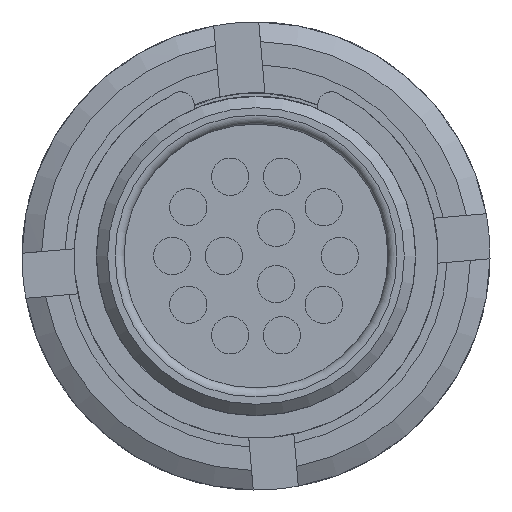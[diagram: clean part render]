
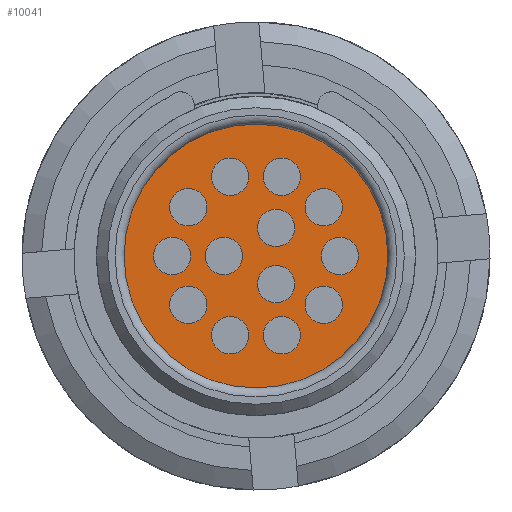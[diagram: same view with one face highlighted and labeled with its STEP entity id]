
A CAD part, left-side view. The second image highlights one B-rep face of the part: STEP entity #10041.
In plain terms, the highlighted planar face has unit normal (-1, 0, 0).
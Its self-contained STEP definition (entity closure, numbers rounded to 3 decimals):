
#169=FACE_BOUND('',#1397,.T.);
#170=FACE_BOUND('',#1398,.T.);
#171=FACE_BOUND('',#1399,.T.);
#172=FACE_BOUND('',#1400,.T.);
#173=FACE_BOUND('',#1401,.T.);
#174=FACE_BOUND('',#1402,.T.);
#175=FACE_BOUND('',#1403,.T.);
#176=FACE_BOUND('',#1404,.T.);
#177=FACE_BOUND('',#1405,.T.);
#178=FACE_BOUND('',#1406,.T.);
#179=FACE_BOUND('',#1407,.T.);
#180=FACE_BOUND('',#1408,.T.);
#181=FACE_BOUND('',#1409,.T.);
#467=PLANE('',#10839);
#856=FACE_OUTER_BOUND('',#1396,.T.);
#1396=EDGE_LOOP('',(#8080));
#1397=EDGE_LOOP('',(#8081));
#1398=EDGE_LOOP('',(#8082));
#1399=EDGE_LOOP('',(#8083));
#1400=EDGE_LOOP('',(#8084));
#1401=EDGE_LOOP('',(#8085));
#1402=EDGE_LOOP('',(#8086));
#1403=EDGE_LOOP('',(#8087));
#1404=EDGE_LOOP('',(#8088));
#1405=EDGE_LOOP('',(#8089));
#1406=EDGE_LOOP('',(#8090));
#1407=EDGE_LOOP('',(#8091));
#1408=EDGE_LOOP('',(#8092));
#1409=EDGE_LOOP('',(#8093));
#3266=CIRCLE('',#10840,5.835);
#3267=CIRCLE('',#10841,0.825);
#3268=CIRCLE('',#10842,0.825);
#3269=CIRCLE('',#10843,0.825);
#3270=CIRCLE('',#10844,0.825);
#3271=CIRCLE('',#10845,0.825);
#3272=CIRCLE('',#10846,0.825);
#3273=CIRCLE('',#10847,0.825);
#3274=CIRCLE('',#10848,0.825);
#3275=CIRCLE('',#10849,0.825);
#3276=CIRCLE('',#10850,0.825);
#3277=CIRCLE('',#10851,0.825);
#3278=CIRCLE('',#10852,0.825);
#3279=CIRCLE('',#10853,0.825);
#4265=VERTEX_POINT('',#22636);
#4266=VERTEX_POINT('',#22638);
#4267=VERTEX_POINT('',#22640);
#4268=VERTEX_POINT('',#22642);
#4269=VERTEX_POINT('',#22644);
#4270=VERTEX_POINT('',#22646);
#4271=VERTEX_POINT('',#22648);
#4272=VERTEX_POINT('',#22650);
#4273=VERTEX_POINT('',#22652);
#4274=VERTEX_POINT('',#22654);
#4275=VERTEX_POINT('',#22656);
#4276=VERTEX_POINT('',#22658);
#4277=VERTEX_POINT('',#22660);
#4278=VERTEX_POINT('',#22662);
#5626=EDGE_CURVE('',#4265,#4265,#3266,.T.);
#5627=EDGE_CURVE('',#4266,#4266,#3267,.T.);
#5628=EDGE_CURVE('',#4267,#4267,#3268,.T.);
#5629=EDGE_CURVE('',#4268,#4268,#3269,.T.);
#5630=EDGE_CURVE('',#4269,#4269,#3270,.T.);
#5631=EDGE_CURVE('',#4270,#4270,#3271,.T.);
#5632=EDGE_CURVE('',#4271,#4271,#3272,.T.);
#5633=EDGE_CURVE('',#4272,#4272,#3273,.T.);
#5634=EDGE_CURVE('',#4273,#4273,#3274,.T.);
#5635=EDGE_CURVE('',#4274,#4274,#3275,.T.);
#5636=EDGE_CURVE('',#4275,#4275,#3276,.T.);
#5637=EDGE_CURVE('',#4276,#4276,#3277,.T.);
#5638=EDGE_CURVE('',#4277,#4277,#3278,.T.);
#5639=EDGE_CURVE('',#4278,#4278,#3279,.T.);
#8080=ORIENTED_EDGE('',*,*,#5626,.F.);
#8081=ORIENTED_EDGE('',*,*,#5627,.T.);
#8082=ORIENTED_EDGE('',*,*,#5628,.T.);
#8083=ORIENTED_EDGE('',*,*,#5629,.T.);
#8084=ORIENTED_EDGE('',*,*,#5630,.T.);
#8085=ORIENTED_EDGE('',*,*,#5631,.T.);
#8086=ORIENTED_EDGE('',*,*,#5632,.T.);
#8087=ORIENTED_EDGE('',*,*,#5633,.T.);
#8088=ORIENTED_EDGE('',*,*,#5634,.T.);
#8089=ORIENTED_EDGE('',*,*,#5635,.T.);
#8090=ORIENTED_EDGE('',*,*,#5636,.T.);
#8091=ORIENTED_EDGE('',*,*,#5637,.T.);
#8092=ORIENTED_EDGE('',*,*,#5638,.T.);
#8093=ORIENTED_EDGE('',*,*,#5639,.T.);
#10041=ADVANCED_FACE('',(#856,#169,#170,#171,#172,#173,#174,#175,#176,#177,
#178,#179,#180,#181),#467,.F.);
#10839=AXIS2_PLACEMENT_3D('',#22635,#12698,#12699);
#10840=AXIS2_PLACEMENT_3D('',#22637,#12700,#12701);
#10841=AXIS2_PLACEMENT_3D('',#22639,#12702,#12703);
#10842=AXIS2_PLACEMENT_3D('',#22641,#12704,#12705);
#10843=AXIS2_PLACEMENT_3D('',#22643,#12706,#12707);
#10844=AXIS2_PLACEMENT_3D('',#22645,#12708,#12709);
#10845=AXIS2_PLACEMENT_3D('',#22647,#12710,#12711);
#10846=AXIS2_PLACEMENT_3D('',#22649,#12712,#12713);
#10847=AXIS2_PLACEMENT_3D('',#22651,#12714,#12715);
#10848=AXIS2_PLACEMENT_3D('',#22653,#12716,#12717);
#10849=AXIS2_PLACEMENT_3D('',#22655,#12718,#12719);
#10850=AXIS2_PLACEMENT_3D('',#22657,#12720,#12721);
#10851=AXIS2_PLACEMENT_3D('',#22659,#12722,#12723);
#10852=AXIS2_PLACEMENT_3D('',#22661,#12724,#12725);
#10853=AXIS2_PLACEMENT_3D('',#22663,#12726,#12727);
#12698=DIRECTION('center_axis',(1.,0.,0.));
#12699=DIRECTION('ref_axis',(0.,0.,-1.));
#12700=DIRECTION('center_axis',(1.,0.,0.));
#12701=DIRECTION('ref_axis',(0.,0.,1.));
#12702=DIRECTION('center_axis',(1.,0.,0.));
#12703=DIRECTION('ref_axis',(0.,0.,-1.));
#12704=DIRECTION('center_axis',(1.,0.,0.));
#12705=DIRECTION('ref_axis',(0.,0.,-1.));
#12706=DIRECTION('center_axis',(1.,0.,0.));
#12707=DIRECTION('ref_axis',(0.,0.,-1.));
#12708=DIRECTION('center_axis',(1.,0.,0.));
#12709=DIRECTION('ref_axis',(0.,0.,-1.));
#12710=DIRECTION('center_axis',(1.,0.,0.));
#12711=DIRECTION('ref_axis',(0.,0.,-1.));
#12712=DIRECTION('center_axis',(1.,0.,0.));
#12713=DIRECTION('ref_axis',(0.,0.,-1.));
#12714=DIRECTION('center_axis',(1.,0.,0.));
#12715=DIRECTION('ref_axis',(0.,0.,-1.));
#12716=DIRECTION('center_axis',(1.,0.,0.));
#12717=DIRECTION('ref_axis',(0.,0.,-1.));
#12718=DIRECTION('center_axis',(1.,0.,0.));
#12719=DIRECTION('ref_axis',(0.,0.,-1.));
#12720=DIRECTION('center_axis',(1.,0.,0.));
#12721=DIRECTION('ref_axis',(0.,0.,-1.));
#12722=DIRECTION('center_axis',(1.,0.,0.));
#12723=DIRECTION('ref_axis',(0.,0.,-1.));
#12724=DIRECTION('center_axis',(1.,0.,0.));
#12725=DIRECTION('ref_axis',(0.,0.,-1.));
#12726=DIRECTION('center_axis',(1.,0.,0.));
#12727=DIRECTION('ref_axis',(0.,0.,-1.));
#22635=CARTESIAN_POINT('Origin',(2.015,0.,0.));
#22636=CARTESIAN_POINT('',(2.015,0.,-5.835));
#22637=CARTESIAN_POINT('Origin',(2.015,0.,0.));
#22638=CARTESIAN_POINT('',(2.015,1.42,0.825));
#22639=CARTESIAN_POINT('Origin',(2.015,1.42,0.));
#22640=CARTESIAN_POINT('',(2.015,2.997,-1.334));
#22641=CARTESIAN_POINT('Origin',(2.015,2.997,-2.159));
#22642=CARTESIAN_POINT('',(2.015,1.143,4.33));
#22643=CARTESIAN_POINT('Origin',(2.015,1.143,3.505));
#22644=CARTESIAN_POINT('',(2.015,-1.143,-2.68));
#22645=CARTESIAN_POINT('Origin',(2.015,-1.143,-3.505));
#22646=CARTESIAN_POINT('',(2.015,-0.889,2.07));
#22647=CARTESIAN_POINT('Origin',(2.015,-0.889,1.245));
#22648=CARTESIAN_POINT('',(2.015,-2.997,2.984));
#22649=CARTESIAN_POINT('Origin',(2.015,-2.997,2.159));
#22650=CARTESIAN_POINT('',(2.015,-2.997,-1.334));
#22651=CARTESIAN_POINT('Origin',(2.015,-2.997,-2.159));
#22652=CARTESIAN_POINT('',(2.015,-3.708,0.825));
#22653=CARTESIAN_POINT('Origin',(2.015,-3.708,0.));
#22654=CARTESIAN_POINT('',(2.015,-1.143,4.33));
#22655=CARTESIAN_POINT('Origin',(2.015,-1.143,3.505));
#22656=CARTESIAN_POINT('',(2.015,-0.889,-0.42));
#22657=CARTESIAN_POINT('Origin',(2.015,-0.889,-1.245));
#22658=CARTESIAN_POINT('',(2.015,1.143,-2.68));
#22659=CARTESIAN_POINT('Origin',(2.015,1.143,-3.505));
#22660=CARTESIAN_POINT('',(2.015,2.997,2.984));
#22661=CARTESIAN_POINT('Origin',(2.015,2.997,2.159));
#22662=CARTESIAN_POINT('',(2.015,3.708,0.825));
#22663=CARTESIAN_POINT('Origin',(2.015,3.708,0.));
